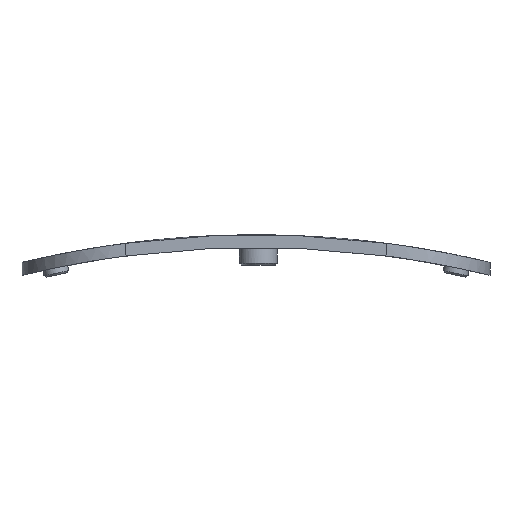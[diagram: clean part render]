
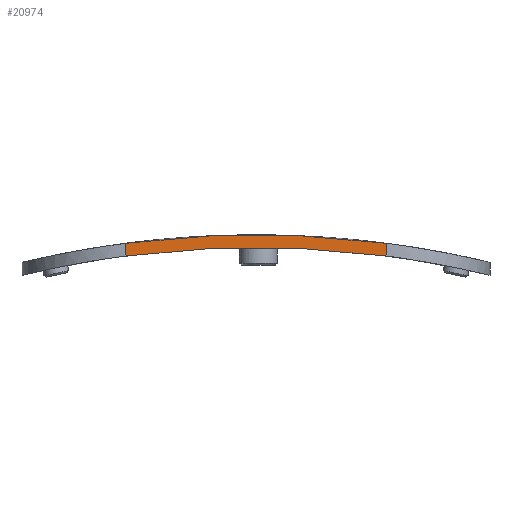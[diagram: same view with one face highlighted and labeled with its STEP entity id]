
A CAD part, front view. The second image highlights one B-rep face of the part: STEP entity #20974.
In plain terms, the highlighted planar face has unit normal (0, -1, 0).
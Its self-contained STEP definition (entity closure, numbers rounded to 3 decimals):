
#71 = CYLINDRICAL_SURFACE('',#72,111.371);
#72 = AXIS2_PLACEMENT_3D('',#73,#74,#75);
#73 = CARTESIAN_POINT('',(53.19,0.,-111.371));
#74 = DIRECTION('',(0.,-1.,0.));
#75 = DIRECTION('',(1.,0.,0.));
#98 = CYLINDRICAL_SURFACE('',#99,11.5);
#99 = AXIS2_PLACEMENT_3D('',#100,#101,#102);
#100 = CARTESIAN_POINT('',(38.74,7.02,2.));
#101 = DIRECTION('',(0.,0.,1.));
#102 = DIRECTION('',(1.,0.,0.));
#123 = CYLINDRICAL_SURFACE('',#124,109.971);
#124 = AXIS2_PLACEMENT_3D('',#125,#126,#127);
#125 = CARTESIAN_POINT('',(53.19,0.,-111.371));
#126 = DIRECTION('',(0.,-1.,0.));
#127 = DIRECTION('',(1.,0.,0.));
#280 = VERTEX_POINT('',#281);
#281 = CARTESIAN_POINT('',(38.74,-4.48,-2.353));
#407 = EDGE_CURVE('',#280,#408,#410,.T.);
#408 = VERTEX_POINT('',#409);
#409 = CARTESIAN_POINT('',(67.64,-4.48,-2.353));
#410 = SURFACE_CURVE('',#411,(#416,#423),.PCURVE_S1.);
#411 = CIRCLE('',#412,109.971);
#412 = AXIS2_PLACEMENT_3D('',#413,#414,#415);
#413 = CARTESIAN_POINT('',(53.19,-4.48,-111.371));
#414 = DIRECTION('',(-0.,1.,0.));
#415 = DIRECTION('',(1.,0.,0.));
#416 = PCURVE('',#123,#417);
#417 = DEFINITIONAL_REPRESENTATION('',(#418),#422);
#418 = LINE('',#419,#420);
#419 = CARTESIAN_POINT('',(6.283,4.48));
#420 = VECTOR('',#421,1.);
#421 = DIRECTION('',(-1.,-0.));
#422 = ( GEOMETRIC_REPRESENTATION_CONTEXT(2) 
PARAMETRIC_REPRESENTATION_CONTEXT() REPRESENTATION_CONTEXT('2D SPACE',''
  ) );
#423 = PCURVE('',#424,#429);
#424 = PLANE('',#425);
#425 = AXIS2_PLACEMENT_3D('',#426,#427,#428);
#426 = CARTESIAN_POINT('',(38.74,-4.48,2.));
#427 = DIRECTION('',(0.,-1.,0.));
#428 = DIRECTION('',(1.,0.,0.));
#429 = DEFINITIONAL_REPRESENTATION('',(#430),#438);
#430 = ( BOUNDED_CURVE() B_SPLINE_CURVE(2,(#431,#432,#433,#434,#435,#436
,#437),.UNSPECIFIED.,.T.,.F.) B_SPLINE_CURVE_WITH_KNOTS((1,2,2,2,2,1),(
    -2.094,0.,2.094,4.189,6.283,
8.378),.UNSPECIFIED.) CURVE() GEOMETRIC_REPRESENTATION_ITEM() 
RATIONAL_B_SPLINE_CURVE((1.,0.5,1.,0.5,1.,0.5,1.)) REPRESENTATION_ITEM(
  '') );
#431 = CARTESIAN_POINT('',(124.421,-113.371));
#432 = CARTESIAN_POINT('',(124.421,-303.848));
#433 = CARTESIAN_POINT('',(-40.536,-208.609));
#434 = CARTESIAN_POINT('',(-205.493,-113.371));
#435 = CARTESIAN_POINT('',(-40.536,-18.133));
#436 = CARTESIAN_POINT('',(124.421,77.105));
#437 = CARTESIAN_POINT('',(124.421,-113.371));
#438 = ( GEOMETRIC_REPRESENTATION_CONTEXT(2) 
PARAMETRIC_REPRESENTATION_CONTEXT() REPRESENTATION_CONTEXT('2D SPACE',''
  ) );
#517 = CYLINDRICAL_SURFACE('',#518,11.5);
#518 = AXIS2_PLACEMENT_3D('',#519,#520,#521);
#519 = CARTESIAN_POINT('',(67.64,7.02,2.));
#520 = DIRECTION('',(0.,0.,1.));
#521 = DIRECTION('',(1.,0.,0.));
#9213 = VERTEX_POINT('',#9214);
#9214 = CARTESIAN_POINT('',(38.74,-4.48,-0.941));
#9342 = EDGE_CURVE('',#9213,#280,#9343,.T.);
#9343 = SURFACE_CURVE('',#9344,(#9348,#9355),.PCURVE_S1.);
#9344 = LINE('',#9345,#9346);
#9345 = CARTESIAN_POINT('',(38.74,-4.48,2.));
#9346 = VECTOR('',#9347,1.);
#9347 = DIRECTION('',(-0.,-0.,-1.));
#9348 = PCURVE('',#98,#9349);
#9349 = DEFINITIONAL_REPRESENTATION('',(#9350),#9354);
#9350 = LINE('',#9351,#9352);
#9351 = CARTESIAN_POINT('',(4.712,0.));
#9352 = VECTOR('',#9353,1.);
#9353 = DIRECTION('',(0.,-1.));
#9354 = ( GEOMETRIC_REPRESENTATION_CONTEXT(2) 
PARAMETRIC_REPRESENTATION_CONTEXT() REPRESENTATION_CONTEXT('2D SPACE',''
  ) );
#9355 = PCURVE('',#424,#9356);
#9356 = DEFINITIONAL_REPRESENTATION('',(#9357),#9361);
#9357 = LINE('',#9358,#9359);
#9358 = CARTESIAN_POINT('',(0.,0.));
#9359 = VECTOR('',#9360,1.);
#9360 = DIRECTION('',(0.,-1.));
#9361 = ( GEOMETRIC_REPRESENTATION_CONTEXT(2) 
PARAMETRIC_REPRESENTATION_CONTEXT() REPRESENTATION_CONTEXT('2D SPACE',''
  ) );
#9367 = EDGE_CURVE('',#9213,#9368,#9370,.T.);
#9368 = VERTEX_POINT('',#9369);
#9369 = CARTESIAN_POINT('',(67.64,-4.48,-0.941));
#9370 = SURFACE_CURVE('',#9371,(#9376,#9383),.PCURVE_S1.);
#9371 = CIRCLE('',#9372,111.371);
#9372 = AXIS2_PLACEMENT_3D('',#9373,#9374,#9375);
#9373 = CARTESIAN_POINT('',(53.19,-4.48,-111.371));
#9374 = DIRECTION('',(-0.,1.,0.));
#9375 = DIRECTION('',(1.,0.,0.));
#9376 = PCURVE('',#71,#9377);
#9377 = DEFINITIONAL_REPRESENTATION('',(#9378),#9382);
#9378 = LINE('',#9379,#9380);
#9379 = CARTESIAN_POINT('',(6.283,4.48));
#9380 = VECTOR('',#9381,1.);
#9381 = DIRECTION('',(-1.,-0.));
#9382 = ( GEOMETRIC_REPRESENTATION_CONTEXT(2) 
PARAMETRIC_REPRESENTATION_CONTEXT() REPRESENTATION_CONTEXT('2D SPACE',''
  ) );
#9383 = PCURVE('',#424,#9384);
#9384 = DEFINITIONAL_REPRESENTATION('',(#9385),#9393);
#9385 = ( BOUNDED_CURVE() B_SPLINE_CURVE(2,(#9386,#9387,#9388,#9389,
#9390,#9391,#9392),.UNSPECIFIED.,.T.,.F.) B_SPLINE_CURVE_WITH_KNOTS((1,2
    ,2,2,2,1),(-2.094,0.,2.094,4.189,
6.283,8.378),.UNSPECIFIED.) CURVE() 
GEOMETRIC_REPRESENTATION_ITEM() RATIONAL_B_SPLINE_CURVE((1.,0.5,1.,0.5,
1.,0.5,1.)) REPRESENTATION_ITEM('') );
#9386 = CARTESIAN_POINT('',(125.821,-113.371));
#9387 = CARTESIAN_POINT('',(125.821,-306.272));
#9388 = CARTESIAN_POINT('',(-41.236,-209.822));
#9389 = CARTESIAN_POINT('',(-208.293,-113.371));
#9390 = CARTESIAN_POINT('',(-41.236,-16.921));
#9391 = CARTESIAN_POINT('',(125.821,79.53));
#9392 = CARTESIAN_POINT('',(125.821,-113.371));
#9393 = ( GEOMETRIC_REPRESENTATION_CONTEXT(2) 
PARAMETRIC_REPRESENTATION_CONTEXT() REPRESENTATION_CONTEXT('2D SPACE',''
  ) );
#20974 = ADVANCED_FACE('',(#20975),#424,.T.);
#20975 = FACE_BOUND('',#20976,.T.);
#20976 = EDGE_LOOP('',(#20977,#20978,#20979,#20980));
#20977 = ORIENTED_EDGE('',*,*,#9367,.F.);
#20978 = ORIENTED_EDGE('',*,*,#9342,.T.);
#20979 = ORIENTED_EDGE('',*,*,#407,.T.);
#20980 = ORIENTED_EDGE('',*,*,#20981,.F.);
#20981 = EDGE_CURVE('',#9368,#408,#20982,.T.);
#20982 = SURFACE_CURVE('',#20983,(#20987,#20994),.PCURVE_S1.);
#20983 = LINE('',#20984,#20985);
#20984 = CARTESIAN_POINT('',(67.64,-4.48,2.));
#20985 = VECTOR('',#20986,1.);
#20986 = DIRECTION('',(-0.,-0.,-1.));
#20987 = PCURVE('',#424,#20988);
#20988 = DEFINITIONAL_REPRESENTATION('',(#20989),#20993);
#20989 = LINE('',#20990,#20991);
#20990 = CARTESIAN_POINT('',(28.9,0.));
#20991 = VECTOR('',#20992,1.);
#20992 = DIRECTION('',(0.,-1.));
#20993 = ( GEOMETRIC_REPRESENTATION_CONTEXT(2) 
PARAMETRIC_REPRESENTATION_CONTEXT() REPRESENTATION_CONTEXT('2D SPACE',''
  ) );
#20994 = PCURVE('',#517,#20995);
#20995 = DEFINITIONAL_REPRESENTATION('',(#20996),#21000);
#20996 = LINE('',#20997,#20998);
#20997 = CARTESIAN_POINT('',(4.712,0.));
#20998 = VECTOR('',#20999,1.);
#20999 = DIRECTION('',(0.,-1.));
#21000 = ( GEOMETRIC_REPRESENTATION_CONTEXT(2) 
PARAMETRIC_REPRESENTATION_CONTEXT() REPRESENTATION_CONTEXT('2D SPACE',''
  ) );
